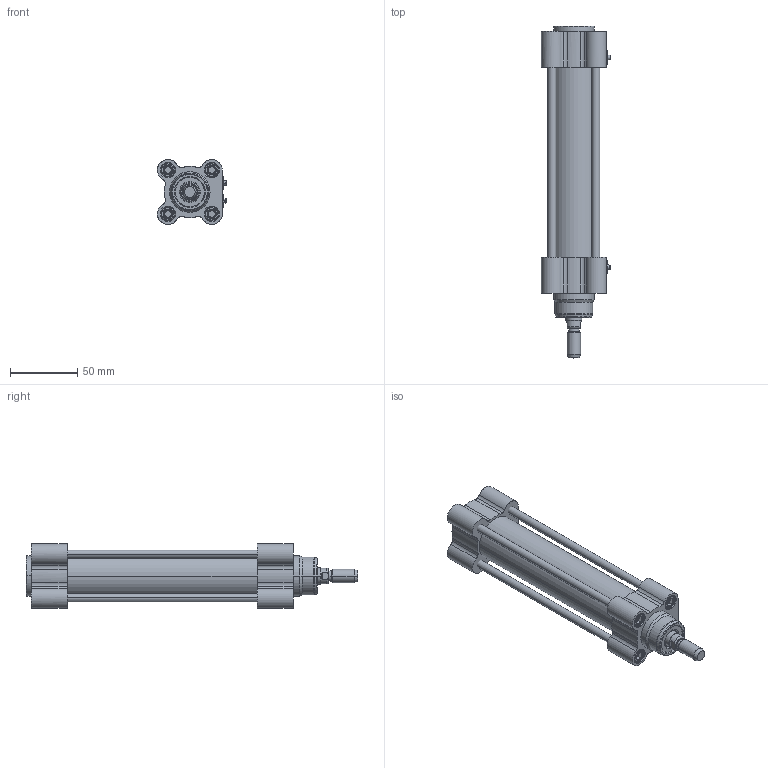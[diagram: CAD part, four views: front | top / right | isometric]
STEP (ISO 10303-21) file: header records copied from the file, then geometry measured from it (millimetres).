
FILE_DESCRIPTION (( 'STEP AP203' ), '1' );
FILE_NAME ('CTMI32-100.STEP', '2020-03-26T19:02:45', ( '' ), ( '' ), 'SwSTEP 2.0', 'SolidWorks 2019', '' );
FILE_SCHEMA (( 'CONFIG_CONTROL_DESIGN' ));
Length unit declared in the file: millimetre
Products named in the file (1): CTMI32-100
Bounding box: 51.2 x 246 x 48 mm (x, y, z)
Surface area: 88845.2 mm2 (no closed solid volume)
Topology: 0 solids, 27 shells, 706 faces, 1614 edges, 990 vertices
Faces by surface type: cylinder 207, cone 203, plane 192, torus 88, bspline 16
Entity records: 25729 total; most frequent: CARTESIAN_POINT 10948, ORIENTED_EDGE 3172, DIRECTION 2802, EDGE_CURVE 1614, AXIS2_PLACEMENT_3D 1166, VERTEX_POINT 990, EDGE_LOOP 776, FACE_OUTER_BOUND 706
